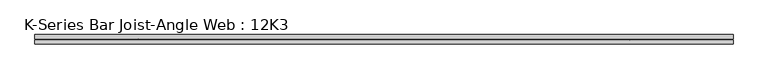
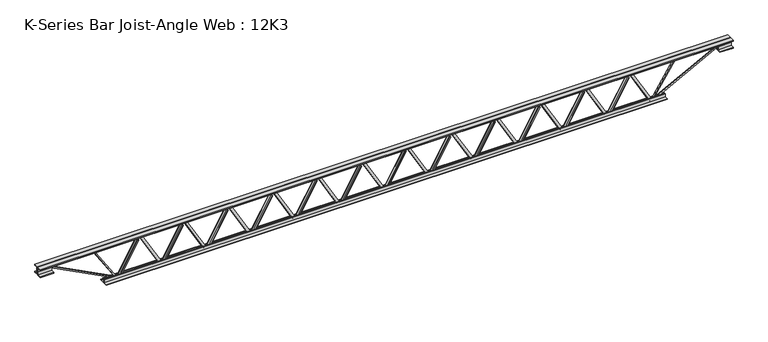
"""IFC4 building model written with IfcOpenShell, lengths in millimetres: beam geometry, K-Series Bar Joist-Angle Web : 12K3."""

from ifc_helpers import new_model, si_unit, frame, origin, place, context, project, spatial, polyline, outline, extrude, faceted_brep, source, transform, mapped, element, save


def k_series_bar_joist_angle_web_12k3_390ba880(model_context):
    return source(origin(), model_context, "Body", "SolidModel", [
        extrude(outline(polyline([(-4.7625, 4.7625), (-4.7625, 0.0), (-17.4625, 0.0), (-17.4625, 4.7625), (-4.7625, 4.7625)])), frame((1688.6471323, 0.0, -114.3), z_axis=(-0.4952527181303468, 0.0, 0.8687489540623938), x_axis=(0.0, -1.0, 0.0)), (0.0, 0.0, 1.0), 263.1370075),
        extrude(outline(polyline([(-149.225, 1720.4410985), (-130.175, 1720.4410985), (-130.175, 1719.6251689), (149.225, 1560.3460022), (149.225, 1542.1119318), (130.175, 1542.1119318), (130.175, 1549.2778614), (-149.225, 1708.5570281), (-149.225, 1720.4410985)])), frame((0.0, 0.0, 0.0), z_axis=(0.0, 1.0, 0.0), x_axis=(0.0, 0.0, 1.0)), (0.0, 0.0, 1.0), 4.7625),
        faceted_brep([(1376.4827652, 0.0, -130.175), (1376.4827652, 0.0, -149.225), (1376.4827652, -4.7625, -149.225), (1376.4827652, -4.7625, -130.175), (1377.2986948, 0.0, -130.175), (1536.5778614, 0.0, 149.225), (1554.8119318, 0.0, 149.225), (1554.8119318, 0.0, 130.175), (1547.6460022, 0.0, 130.175), (1388.3668355, 0.0, -149.225), (1388.3668355, -4.7625, -149.225), (1408.2767314, -4.7625, -114.3), (1404.1393145, -4.7625, -111.9413589), (1534.4586327, -4.7625, 116.6586411), (1538.5960496, -4.7625, 114.3), (1547.6460022, -4.7625, 130.175), (1554.8119318, -4.7625, 130.175), (1554.8119318, -4.7625, 149.225), (1536.5778614, -4.7625, 149.225), (1377.2986948, -4.7625, -130.175), (1538.5960496, -17.4625, 114.3), (1408.2767314, -17.4625, -114.3), (1404.1393145, -17.4625, -111.9413589), (1534.4586327, -17.4625, 116.6586411)], [[[0, 1, 2, 3]], [[1, 0, 4, 5, 6, 7, 8, 9]], [[2, 1, 9, 10]], [[3, 2, 10, 11, 12, 13, 14, 15, 16, 17, 18, 19]], [[0, 3, 19, 4]], [[9, 8, 15, 14, 20, 21, 11, 10]], [[5, 4, 19, 18]], [[7, 6, 17, 16]], [[8, 7, 16, 15]], [[6, 5, 18, 17]], [[21, 22, 12, 11]], [[20, 14, 13, 23]], [[22, 21, 20, 23]], [[12, 22, 23, 13]]]),
        extrude(outline(polyline([(-4.7625, 4.7624999), (-4.7625, 0.0), (-17.4625, 0.0), (-17.4625, 4.7624999), (-4.7625, 4.7624999)])), frame((1344.5444808, 0.0, -114.3), z_axis=(-0.4952527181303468, 0.0, 0.8687489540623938), x_axis=(0.0, -1.0, 0.0)), (0.0, 0.0, 1.0), 263.1370075),
        extrude(outline(polyline([(-149.225, 1376.338447), (-130.175, 1376.338447), (-130.175, 1375.5225174), (149.225, 1216.2433507), (149.225, 1198.0092803), (130.175, 1198.0092803), (130.175, 1205.1752099), (-149.225, 1364.4543766), (-149.225, 1376.338447)])), frame((0.0, 0.0, 0.0), z_axis=(0.0, 1.0, 0.0), x_axis=(0.0, 0.0, 1.0)), (0.0, 0.0, 1.0), 4.7625),
        faceted_brep([(1032.3801136, 0.0, -130.175), (1032.3801136, 0.0, -149.225), (1032.3801136, -4.7625, -149.225), (1032.3801136, -4.7625, -130.175), (1033.1960433, 0.0, -130.175), (1192.4752099, 0.0, 149.225), (1210.7092803, 0.0, 149.225), (1210.7092803, 0.0, 130.175), (1203.5433507, 0.0, 130.175), (1044.264184, 0.0, -149.225), (1044.264184, -4.7625, -149.225), (1064.1740799, -4.7625, -114.3), (1060.036663, -4.7625, -111.9413589), (1190.3559811, -4.7625, 116.6586411), (1194.493398, -4.7625, 114.3), (1203.5433507, -4.7625, 130.175), (1210.7092803, -4.7625, 130.175), (1210.7092803, -4.7625, 149.225), (1192.4752099, -4.7625, 149.225), (1033.1960433, -4.7625, -130.175), (1194.493398, -17.4625, 114.3), (1064.1740799, -17.4625, -114.3), (1060.036663, -17.4625, -111.9413589), (1190.3559811, -17.4625, 116.6586411)], [[[0, 1, 2, 3]], [[1, 0, 4, 5, 6, 7, 8, 9]], [[2, 1, 9, 10]], [[3, 2, 10, 11, 12, 13, 14, 15, 16, 17, 18, 19]], [[0, 3, 19, 4]], [[9, 8, 15, 14, 20, 21, 11, 10]], [[5, 4, 19, 18]], [[7, 6, 17, 16]], [[8, 7, 16, 15]], [[6, 5, 18, 17]], [[21, 22, 12, 11]], [[20, 14, 13, 23]], [[22, 21, 20, 23]], [[12, 22, 23, 13]]]),
        extrude(outline(polyline([(-4.7625, 4.7625), (-4.7625, 0.0), (-17.4625, 0.0), (-17.4625, 4.7625), (-4.7625, 4.7625)])), frame((1000.4418292, 0.0, -114.3), z_axis=(-0.4952527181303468, 0.0, 0.8687489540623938), x_axis=(0.0, -1.0, 0.0)), (0.0, 0.0, 1.0), 263.1370075),
        extrude(outline(polyline([(-149.225, 1032.2357955), (-130.175, 1032.2357955), (-130.175, 1031.4198658), (149.225, 872.1406992), (149.225, 853.9066288), (130.175, 853.9066288), (130.175, 861.0725584), (-149.225, 1020.3517251), (-149.225, 1032.2357955)])), frame((0.0, 0.0, 0.0), z_axis=(0.0, 1.0, 0.0), x_axis=(0.0, 0.0, 1.0)), (0.0, 0.0, 1.0), 4.7625),
        faceted_brep([(688.2774621, 0.0, -130.175), (688.2774621, 0.0, -149.225), (688.2774621, -4.7625, -149.225), (688.2774621, -4.7625, -130.175), (689.0933917, 0.0, -130.175), (848.3725584, 0.0, 149.225), (866.6066288, 0.0, 149.225), (866.6066288, 0.0, 130.175), (859.4406992, 0.0, 130.175), (700.1615325, 0.0, -149.225), (700.1615325, -4.7625, -149.225), (720.0714283, -4.7625, -114.3), (715.9340114, -4.7625, -111.9413589), (846.2533296, -4.7625, 116.6586411), (850.3907465, -4.7625, 114.3), (859.4406992, -4.7625, 130.175), (866.6066288, -4.7625, 130.175), (866.6066288, -4.7625, 149.225), (848.3725584, -4.7625, 149.225), (689.0933917, -4.7625, -130.175), (850.3907465, -17.4625, 114.3), (720.0714283, -17.4625, -114.3), (715.9340114, -17.4625, -111.9413589), (846.2533296, -17.4625, 116.6586411)], [[[0, 1, 2, 3]], [[1, 0, 4, 5, 6, 7, 8, 9]], [[2, 1, 9, 10]], [[3, 2, 10, 11, 12, 13, 14, 15, 16, 17, 18, 19]], [[0, 3, 19, 4]], [[9, 8, 15, 14, 20, 21, 11, 10]], [[5, 4, 19, 18]], [[7, 6, 17, 16]], [[8, 7, 16, 15]], [[6, 5, 18, 17]], [[21, 22, 12, 11]], [[20, 14, 13, 23]], [[22, 21, 20, 23]], [[12, 22, 23, 13]]]),
        extrude(outline(polyline([(-4.7625, 4.7625), (-4.7625, 0.0), (-17.4625, 0.0), (-17.4625, 4.7625), (-4.7625, 4.7625)])), frame((656.3391777, 0.0, -114.3), z_axis=(-0.4952527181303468, 0.0, 0.8687489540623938), x_axis=(0.0, -1.0, 0.0)), (0.0, 0.0, 1.0), 263.1370075),
        extrude(outline(polyline([(-149.225, 688.1331439), (-130.175, 688.1331439), (-130.175, 687.3172143), (149.225, 528.0380477), (149.225, 509.8039773), (130.175, 509.8039773), (130.175, 516.9699069), (-149.225, 676.2490736), (-149.225, 688.1331439)])), frame((0.0, 0.0, 0.0), z_axis=(0.0, 1.0, 0.0), x_axis=(0.0, 0.0, 1.0)), (0.0, 0.0, 1.0), 4.7625),
        faceted_brep([(344.1748106, 0.0, -130.175), (344.1748106, 0.0, -149.225), (344.1748106, -4.7625, -149.225), (344.1748106, -4.7625, -130.175), (344.9907402, 0.0, -130.175), (504.2699069, 0.0, 149.225), (522.5039773, 0.0, 149.225), (522.5039773, 0.0, 130.175), (515.3380477, 0.0, 130.175), (356.058881, 0.0, -149.225), (356.058881, -4.7625, -149.225), (375.9687768, -4.7625, -114.3), (371.8313599, -4.7625, -111.9413589), (502.1506781, -4.7625, 116.6586411), (506.288095, -4.7625, 114.3), (515.3380477, -4.7625, 130.175), (522.5039773, -4.7625, 130.175), (522.5039773, -4.7625, 149.225), (504.2699069, -4.7625, 149.225), (344.9907402, -4.7625, -130.175), (506.288095, -17.4625, 114.3), (375.9687768, -17.4625, -114.3), (371.8313599, -17.4625, -111.9413589), (502.1506781, -17.4625, 116.6586411)], [[[0, 1, 2, 3]], [[1, 0, 4, 5, 6, 7, 8, 9]], [[2, 1, 9, 10]], [[3, 2, 10, 11, 12, 13, 14, 15, 16, 17, 18, 19]], [[0, 3, 19, 4]], [[9, 8, 15, 14, 20, 21, 11, 10]], [[5, 4, 19, 18]], [[7, 6, 17, 16]], [[8, 7, 16, 15]], [[6, 5, 18, 17]], [[21, 22, 12, 11]], [[20, 14, 13, 23]], [[22, 21, 20, 23]], [[12, 22, 23, 13]]]),
        extrude(outline(polyline([(-4.7625, 4.7625), (-4.7625, 0.0), (-17.4625, 0.0), (-17.4625, 4.7625), (-4.7625, 4.7625)])), frame((312.2365262, 0.0, -114.3), z_axis=(-0.4952527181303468, 0.0, 0.8687489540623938), x_axis=(0.0, -1.0, 0.0)), (0.0, 0.0, 1.0), 263.1370075),
        extrude(outline(polyline([(-149.225, 344.0304924), (-130.175, 344.0304924), (-130.175, 343.2145628), (149.225, 183.9353961), (149.225, 165.7013258), (130.175, 165.7013258), (130.175, 172.8672554), (-149.225, 332.146422), (-149.225, 344.0304924)])), frame((0.0, 0.0, 0.0), z_axis=(0.0, 1.0, 0.0), x_axis=(0.0, 0.0, 1.0)), (0.0, 0.0, 1.0), 4.7625),
        faceted_brep([(0.0721591, 0.0, -130.175), (0.0721591, 0.0, -149.225), (0.0721591, -4.7625, -149.225), (0.0721591, -4.7625, -130.175), (0.8880887, 0.0, -130.175), (160.1672554, 0.0, 149.225), (178.4013258, 0.0, 149.225), (178.4013258, 0.0, 130.175), (171.2353961, 0.0, 130.175), (11.9562295, 0.0, -149.225), (11.9562295, -4.7625, -149.225), (31.8661253, -4.7625, -114.3), (27.7287084, -4.7625, -111.9413589), (158.0480266, -4.7625, 116.6586411), (162.1854435, -4.7625, 114.3), (171.2353961, -4.7625, 130.175), (178.4013258, -4.7625, 130.175), (178.4013258, -4.7625, 149.225), (160.1672554, -4.7625, 149.225), (0.8880887, -4.7625, -130.175), (162.1854435, -17.4625, 114.3), (31.8661253, -17.4625, -114.3), (27.7287084, -17.4625, -111.9413589), (158.0480266, -17.4625, 116.6586411)], [[[0, 1, 2, 3]], [[1, 0, 4, 5, 6, 7, 8, 9]], [[2, 1, 9, 10]], [[3, 2, 10, 11, 12, 13, 14, 15, 16, 17, 18, 19]], [[0, 3, 19, 4]], [[9, 8, 15, 14, 20, 21, 11, 10]], [[5, 4, 19, 18]], [[7, 6, 17, 16]], [[8, 7, 16, 15]], [[6, 5, 18, 17]], [[21, 22, 12, 11]], [[20, 14, 13, 23]], [[22, 21, 20, 23]], [[12, 22, 23, 13]]]),
        extrude(outline(polyline([(-4.7625, 4.7625), (-4.7625, 0.0), (-17.4625, 0.0), (-17.4625, 4.7625), (-4.7625, 4.7625)])), frame((-31.8661253, 0.0, -114.3), z_axis=(-0.4952527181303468, 0.0, 0.8687489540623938), x_axis=(0.0, -1.0, 0.0)), (0.0, 0.0, 1.0), 263.1370075),
        extrude(outline(polyline([(-149.225, -0.0721591), (-130.175, -0.0721591), (-130.175, -0.8880887), (149.225, -160.1672554), (149.225, -178.4013258), (130.175, -178.4013258), (130.175, -171.2353961), (-149.225, -11.9562295), (-149.225, -0.0721591)])), frame((0.0, 0.0, 0.0), z_axis=(0.0, 1.0, 0.0), x_axis=(0.0, 0.0, 1.0)), (0.0, 0.0, 1.0), 4.7625),
        faceted_brep([(-344.0304924, 0.0, -130.175), (-344.0304924, 0.0, -149.225), (-344.0304924, -4.7625, -149.225), (-344.0304924, -4.7625, -130.175), (-343.2145628, 0.0, -130.175), (-183.9353961, 0.0, 149.225), (-165.7013258, 0.0, 149.225), (-165.7013258, 0.0, 130.175), (-172.8672554, 0.0, 130.175), (-332.146422, 0.0, -149.225), (-332.146422, -4.7625, -149.225), (-312.2365262, -4.7625, -114.3), (-316.3739431, -4.7625, -111.9413589), (-186.0546249, -4.7625, 116.6586411), (-181.917208, -4.7625, 114.3), (-172.8672554, -4.7625, 130.175), (-165.7013258, -4.7625, 130.175), (-165.7013258, -4.7625, 149.225), (-183.9353961, -4.7625, 149.225), (-343.2145628, -4.7625, -130.175), (-181.917208, -17.4625, 114.3), (-312.2365262, -17.4625, -114.3), (-316.3739431, -17.4625, -111.9413589), (-186.0546249, -17.4625, 116.6586411)], [[[0, 1, 2, 3]], [[1, 0, 4, 5, 6, 7, 8, 9]], [[2, 1, 9, 10]], [[3, 2, 10, 11, 12, 13, 14, 15, 16, 17, 18, 19]], [[0, 3, 19, 4]], [[9, 8, 15, 14, 20, 21, 11, 10]], [[5, 4, 19, 18]], [[7, 6, 17, 16]], [[8, 7, 16, 15]], [[6, 5, 18, 17]], [[21, 22, 12, 11]], [[20, 14, 13, 23]], [[22, 21, 20, 23]], [[12, 22, 23, 13]]]),
        extrude(outline(polyline([(-4.7625, 4.7625), (-4.7625, 0.0), (-17.4625, 0.0), (-17.4625, 4.7625), (-4.7625, 4.7625)])), frame((-375.9687768, 0.0, -114.3), z_axis=(-0.4952527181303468, 0.0, 0.8687489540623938), x_axis=(0.0, -1.0, 0.0)), (0.0, 0.0, 1.0), 263.1370075),
        extrude(outline(polyline([(-149.225, -344.1748106), (-130.175, -344.1748106), (-130.175, -344.9907402), (149.225, -504.2699069), (149.225, -522.5039773), (130.175, -522.5039773), (130.175, -515.3380477), (-149.225, -356.058881), (-149.225, -344.1748106)])), frame((0.0, 0.0, 0.0), z_axis=(0.0, 1.0, 0.0), x_axis=(0.0, 0.0, 1.0)), (0.0, 0.0, 1.0), 4.7625),
        faceted_brep([(-688.1331439, 0.0, -130.175), (-688.1331439, 0.0, -149.225), (-688.1331439, -4.7625, -149.225), (-688.1331439, -4.7625, -130.175), (-687.3172143, 0.0, -130.175), (-528.0380477, 0.0, 149.225), (-509.8039773, 0.0, 149.225), (-509.8039773, 0.0, 130.175), (-516.9699069, 0.0, 130.175), (-676.2490736, 0.0, -149.225), (-676.2490736, -4.7625, -149.225), (-656.3391777, -4.7625, -114.3), (-660.4765946, -4.7625, -111.9413589), (-530.1572764, -4.7625, 116.6586411), (-526.0198595, -4.7625, 114.3), (-516.9699069, -4.7625, 130.175), (-509.8039773, -4.7625, 130.175), (-509.8039773, -4.7625, 149.225), (-528.0380477, -4.7625, 149.225), (-687.3172143, -4.7625, -130.175), (-526.0198595, -17.4625, 114.3), (-656.3391777, -17.4625, -114.3), (-660.4765946, -17.4625, -111.9413589), (-530.1572764, -17.4625, 116.6586411)], [[[0, 1, 2, 3]], [[1, 0, 4, 5, 6, 7, 8, 9]], [[2, 1, 9, 10]], [[3, 2, 10, 11, 12, 13, 14, 15, 16, 17, 18, 19]], [[0, 3, 19, 4]], [[9, 8, 15, 14, 20, 21, 11, 10]], [[5, 4, 19, 18]], [[7, 6, 17, 16]], [[8, 7, 16, 15]], [[6, 5, 18, 17]], [[21, 22, 12, 11]], [[20, 14, 13, 23]], [[22, 21, 20, 23]], [[12, 22, 23, 13]]]),
        extrude(outline(polyline([(-4.7625, 4.7625), (-4.7625, 0.0), (-17.4625, 0.0), (-17.4625, 4.7625), (-4.7625, 4.7625)])), frame((-720.0714283, 0.0, -114.3), z_axis=(-0.4952527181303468, 0.0, 0.8687489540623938), x_axis=(0.0, -1.0, 0.0)), (0.0, 0.0, 1.0), 263.1370075),
        extrude(outline(polyline([(-149.225, -688.2774621), (-130.175, -688.2774621), (-130.175, -689.0933917), (149.225, -848.3725584), (149.225, -866.6066288), (130.175, -866.6066288), (130.175, -859.4406992), (-149.225, -700.1615325), (-149.225, -688.2774621)])), frame((0.0, 0.0, 0.0), z_axis=(0.0, 1.0, 0.0), x_axis=(0.0, 0.0, 1.0)), (0.0, 0.0, 1.0), 4.7625),
        faceted_brep([(-1032.2357955, 0.0, -130.175), (-1032.2357955, 0.0, -149.225), (-1032.2357955, -4.7625, -149.225), (-1032.2357955, -4.7625, -130.175), (-1031.4198658, 0.0, -130.175), (-872.1406992, 0.0, 149.225), (-853.9066288, 0.0, 149.225), (-853.9066288, 0.0, 130.175), (-861.0725584, 0.0, 130.175), (-1020.3517251, 0.0, -149.225), (-1020.3517251, -4.7625, -149.225), (-1000.4418292, -4.7625, -114.3), (-1004.5792461, -4.7625, -111.9413589), (-874.2599279, -4.7625, 116.6586411), (-870.1225111, -4.7625, 114.3), (-861.0725584, -4.7625, 130.175), (-853.9066288, -4.7625, 130.175), (-853.9066288, -4.7625, 149.225), (-872.1406992, -4.7625, 149.225), (-1031.4198658, -4.7625, -130.175), (-870.1225111, -17.4625, 114.3), (-1000.4418292, -17.4625, -114.3), (-1004.5792461, -17.4625, -111.9413589), (-874.2599279, -17.4625, 116.6586411)], [[[0, 1, 2, 3]], [[1, 0, 4, 5, 6, 7, 8, 9]], [[2, 1, 9, 10]], [[3, 2, 10, 11, 12, 13, 14, 15, 16, 17, 18, 19]], [[0, 3, 19, 4]], [[9, 8, 15, 14, 20, 21, 11, 10]], [[5, 4, 19, 18]], [[7, 6, 17, 16]], [[8, 7, 16, 15]], [[6, 5, 18, 17]], [[21, 22, 12, 11]], [[20, 14, 13, 23]], [[22, 21, 20, 23]], [[12, 22, 23, 13]]]),
        extrude(outline(polyline([(-4.7625, 4.7625), (-4.7625, 0.0), (-17.4625, 0.0), (-17.4625, 4.7625), (-4.7625, 4.7625)])), frame((-1064.1740799, 0.0, -114.3), z_axis=(-0.4952527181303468, 0.0, 0.8687489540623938), x_axis=(0.0, -1.0, 0.0)), (0.0, 0.0, 1.0), 263.1370075),
        extrude(outline(polyline([(-149.225, -1032.3801136), (-130.175, -1032.3801136), (-130.175, -1033.1960433), (149.225, -1192.4752099), (149.225, -1210.7092803), (130.175, -1210.7092803), (130.175, -1203.5433507), (-149.225, -1044.264184), (-149.225, -1032.3801136)])), frame((0.0, 0.0, 0.0), z_axis=(0.0, 1.0, 0.0), x_axis=(0.0, 0.0, 1.0)), (0.0, 0.0, 1.0), 4.7625),
        faceted_brep([(-1376.338447, 0.0, -130.175), (-1376.338447, 0.0, -149.225), (-1376.338447, -4.7625, -149.225), (-1376.338447, -4.7625, -130.175), (-1375.5225174, 0.0, -130.175), (-1216.2433507, 0.0, 149.225), (-1198.0092803, 0.0, 149.225), (-1198.0092803, 0.0, 130.175), (-1205.1752099, 0.0, 130.175), (-1364.4543766, 0.0, -149.225), (-1364.4543766, -4.7625, -149.225), (-1344.5444808, -4.7625, -114.3), (-1348.6818976, -4.7625, -111.9413589), (-1218.3625795, -4.7625, 116.6586411), (-1214.2251626, -4.7625, 114.3), (-1205.1752099, -4.7625, 130.175), (-1198.0092803, -4.7625, 130.175), (-1198.0092803, -4.7625, 149.225), (-1216.2433507, -4.7625, 149.225), (-1375.5225174, -4.7625, -130.175), (-1214.2251626, -17.4625, 114.3), (-1344.5444808, -17.4625, -114.3), (-1348.6818976, -17.4625, -111.9413589), (-1218.3625795, -17.4625, 116.6586411)], [[[0, 1, 2, 3]], [[1, 0, 4, 5, 6, 7, 8, 9]], [[2, 1, 9, 10]], [[3, 2, 10, 11, 12, 13, 14, 15, 16, 17, 18, 19]], [[0, 3, 19, 4]], [[9, 8, 15, 14, 20, 21, 11, 10]], [[5, 4, 19, 18]], [[7, 6, 17, 16]], [[8, 7, 16, 15]], [[6, 5, 18, 17]], [[21, 22, 12, 11]], [[20, 14, 13, 23]], [[22, 21, 20, 23]], [[12, 22, 23, 13]]]),
        extrude(outline(polyline([(-4.7625, 4.7625), (-4.7625, 0.0), (-17.4625, 0.0), (-17.4625, 4.7625), (-4.7625, 4.7625)])), frame((-1408.2767314, 0.0, -114.3), z_axis=(-0.4952527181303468, 0.0, 0.8687489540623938), x_axis=(0.0, -1.0, 0.0)), (0.0, 0.0, 1.0), 263.1370075),
        extrude(outline(polyline([(-149.225, -1376.4827652), (-130.175, -1376.4827652), (-130.175, -1377.2986948), (149.225, -1536.5778614), (149.225, -1554.8119318), (130.175, -1554.8119318), (130.175, -1547.6460022), (-149.225, -1388.3668355), (-149.225, -1376.4827652)])), frame((0.0, 0.0, 0.0), z_axis=(0.0, 1.0, 0.0), x_axis=(0.0, 0.0, 1.0)), (0.0, 0.0, 1.0), 4.7625),
        faceted_brep([(-1720.4410985, 0.0, -130.175), (-1720.4410985, 0.0, -149.225), (-1720.4410985, -4.7625, -149.225), (-1720.4410985, -4.7625, -130.175), (-1719.6251689, 0.0, -130.175), (-1560.3460022, 0.0, 149.225), (-1542.1119318, 0.0, 149.225), (-1542.1119318, 0.0, 130.175), (-1549.2778614, 0.0, 130.175), (-1708.5570281, 0.0, -149.225), (-1708.5570281, -4.7625, -149.225), (-1688.6471323, -4.7625, -114.3), (-1692.7845492, -4.7625, -111.9413589), (-1562.465231, -4.7625, 116.6586411), (-1558.3278141, -4.7625, 114.3), (-1549.2778614, -4.7625, 130.175), (-1542.1119318, -4.7625, 130.175), (-1542.1119318, -4.7625, 149.225), (-1560.3460022, -4.7625, 149.225), (-1719.6251689, -4.7625, -130.175), (-1558.3278141, -17.4625, 114.3), (-1688.6471323, -17.4625, -114.3), (-1692.7845492, -17.4625, -111.9413589), (-1562.465231, -17.4625, 116.6586411)], [[[0, 1, 2, 3]], [[1, 0, 4, 5, 6, 7, 8, 9]], [[2, 1, 9, 10]], [[3, 2, 10, 11, 12, 13, 14, 15, 16, 17, 18, 19]], [[0, 3, 19, 4]], [[9, 8, 15, 14, 20, 21, 11, 10]], [[5, 4, 19, 18]], [[7, 6, 17, 16]], [[8, 7, 16, 15]], [[6, 5, 18, 17]], [[21, 22, 12, 11]], [[20, 14, 13, 23]], [[22, 21, 20, 23]], [[12, 22, 23, 13]]]),
        extrude(outline(polyline([(-4.7625, 4.7625), (-4.7625, 0.0), (-17.4625, 0.0), (-17.4625, 4.7625), (-4.7625, 4.7625)])), frame((2032.7497838, 0.0, -114.3), z_axis=(-0.4952527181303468, 0.0, 0.8687489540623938), x_axis=(0.0, -1.0, 0.0)), (0.0, 0.0, 1.0), 263.1370075),
        extrude(outline(polyline([(-149.225, 2064.54375), (-130.175, 2064.54375), (-130.175, 2063.7278204), (149.225, 1904.4486537), (149.225, 1886.2145833), (130.175, 1886.2145833), (130.175, 1893.3805129), (-149.225, 2052.6596796), (-149.225, 2064.54375)])), frame((0.0, 0.0, 0.0), z_axis=(0.0, 1.0, 0.0), x_axis=(0.0, 0.0, 1.0)), (0.0, 0.0, 1.0), 4.7625),
        faceted_brep([(1720.5854167, 0.0, -130.175), (1720.5854167, 0.0, -149.225), (1720.5854167, -4.7625, -149.225), (1720.5854167, -4.7625, -130.175), (1721.4013463, 0.0, -130.175), (1880.6805129, 0.0, 149.225), (1898.9145833, 0.0, 149.225), (1898.9145833, 0.0, 130.175), (1891.7486537, 0.0, 130.175), (1732.4694871, 0.0, -149.225), (1732.4694871, -4.7625, -149.225), (1752.3793829, -4.7625, -114.3), (1748.241966, -4.7625, -111.9413589), (1878.5612842, -4.7625, 116.6586411), (1882.6987011, -4.7625, 114.3), (1891.7486537, -4.7625, 130.175), (1898.9145833, -4.7625, 130.175), (1898.9145833, -4.7625, 149.225), (1880.6805129, -4.7625, 149.225), (1721.4013463, -4.7625, -130.175), (1882.6987011, -17.4625, 114.3), (1752.3793829, -17.4625, -114.3), (1748.241966, -17.4625, -111.9413589), (1878.5612842, -17.4625, 116.6586411)], [[[0, 1, 2, 3]], [[1, 0, 4, 5, 6, 7, 8, 9]], [[2, 1, 9, 10]], [[3, 2, 10, 11, 12, 13, 14, 15, 16, 17, 18, 19]], [[0, 3, 19, 4]], [[9, 8, 15, 14, 20, 21, 11, 10]], [[5, 4, 19, 18]], [[7, 6, 17, 16]], [[8, 7, 16, 15]], [[6, 5, 18, 17]], [[21, 22, 12, 11]], [[20, 14, 13, 23]], [[22, 21, 20, 23]], [[12, 22, 23, 13]]]),
        extrude(outline(polyline([(-4.7625, 4.7625), (-4.7625, 0.0), (-17.4625, 0.0), (-17.4625, 4.7625), (-4.7625, 4.7625)])), frame((-1752.3793829, 0.0, -114.3), z_axis=(-0.4952527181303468, 0.0, 0.8687489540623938), x_axis=(0.0, -1.0, 0.0)), (0.0, 0.0, 1.0), 263.1370075),
        extrude(outline(polyline([(-149.225, -1720.5854167), (-130.175, -1720.5854167), (-130.175, -1721.4013463), (149.225, -1880.6805129), (149.225, -1898.9145833), (130.175, -1898.9145833), (130.175, -1891.7486537), (-149.225, -1732.4694871), (-149.225, -1720.5854167)])), frame((0.0, 0.0, 0.0), z_axis=(0.0, 1.0, 0.0), x_axis=(0.0, 0.0, 1.0)), (0.0, 0.0, 1.0), 4.7625),
        faceted_brep([(-2064.54375, 0.0, -130.175), (-2064.54375, 0.0, -149.225), (-2064.54375, -4.7625, -149.225), (-2064.54375, -4.7625, -130.175), (-2063.7278204, 0.0, -130.175), (-1904.4486537, 0.0, 149.225), (-1886.2145833, 0.0, 149.225), (-1886.2145833, 0.0, 130.175), (-1893.3805129, 0.0, 130.175), (-2052.6596796, 0.0, -149.225), (-2052.6596796, -4.7625, -149.225), (-2032.7497838, -4.7625, -114.3), (-2036.8872007, -4.7625, -111.9413589), (-1906.5678825, -4.7625, 116.6586411), (-1902.4304656, -4.7625, 114.3), (-1893.3805129, -4.7625, 130.175), (-1886.2145833, -4.7625, 130.175), (-1886.2145833, -4.7625, 149.225), (-1904.4486537, -4.7625, 149.225), (-2063.7278204, -4.7625, -130.175), (-1902.4304656, -17.4625, 114.3), (-2032.7497838, -17.4625, -114.3), (-2036.8872007, -17.4625, -111.9413589), (-1906.5678825, -17.4625, 116.6586411)], [[[0, 1, 2, 3]], [[1, 0, 4, 5, 6, 7, 8, 9]], [[2, 1, 9, 10]], [[3, 2, 10, 11, 12, 13, 14, 15, 16, 17, 18, 19]], [[0, 3, 19, 4]], [[9, 8, 15, 14, 20, 21, 11, 10]], [[5, 4, 19, 18]], [[7, 6, 17, 16]], [[8, 7, 16, 15]], [[6, 5, 18, 17]], [[21, 22, 12, 11]], [[20, 14, 13, 23]], [[22, 21, 20, 23]], [[12, 22, 23, 13]]]),
        extrude(outline(polyline([(4.7625, 152.4), (36.5125, 152.4), (36.5125, 146.05), (11.1125, 146.05), (11.1125, 120.65), (4.7625, 120.65), (4.7625, 152.4)])), frame((-2674.14375, 0.0, 0.0), z_axis=(1.0, 0.0, 0.0), x_axis=(0.0, 1.0, 0.0)), (0.0, 0.0, 1.0), 5348.2875),
        extrude(outline(polyline([(-4.7625, 152.4), (-4.7625, 120.65), (-11.1125, 120.65), (-11.1125, 146.05), (-36.5125, 146.05), (-36.5125, 152.4), (-4.7625, 152.4)])), frame((-2674.14375, 0.0, 0.0), z_axis=(1.0, 0.0, 0.0), x_axis=(0.0, 1.0, 0.0)), (0.0, 0.0, 1.0), 5348.2875),
        extrude(outline(polyline([(-4.7625, 88.9), (-36.5125, 88.9), (-36.5125, 95.25), (-11.1125, 95.25), (-11.1125, 120.65), (-4.7625, 120.65), (-4.7625, 88.9)])), frame((-2674.14375, 0.0, 0.0), z_axis=(1.0, 0.0, 0.0), x_axis=(0.0, 1.0, 0.0)), (0.0, 0.0, 1.0), 101.6),
        extrude(outline(polyline([(36.5125, 88.9), (4.7625, 88.9), (4.7625, 120.65), (11.1125, 120.65), (11.1125, 95.25), (36.5125, 95.25), (36.5125, 88.9)])), frame((-2674.14375, 0.0, 0.0), z_axis=(1.0, 0.0, 0.0), x_axis=(0.0, 1.0, 0.0)), (0.0, 0.0, 1.0), 101.6),
        extrude(outline(polyline([(4.7625, 88.9), (4.7625, 120.65), (11.1125, 120.65), (11.1125, 95.25), (36.5125, 95.25), (36.5125, 88.9), (4.7625, 88.9)])), frame((2572.54375, 0.0, 0.0), z_axis=(1.0, 0.0, 0.0), x_axis=(0.0, 1.0, 0.0)), (0.0, 0.0, 1.0), 101.6),
        extrude(outline(polyline([(-4.7625, 88.9), (-36.5125, 88.9), (-36.5125, 95.25), (-11.1125, 95.25), (-11.1125, 120.65), (-4.7625, 120.65), (-4.7625, 88.9)])), frame((2572.54375, 0.0, 0.0), z_axis=(1.0, 0.0, 0.0), x_axis=(0.0, 1.0, 0.0)), (0.0, 0.0, 1.0), 101.6),
        extrude(outline(polyline([(4.7625, -152.4), (4.7625, -120.65), (11.1125, -120.65), (11.1125, -146.05), (36.5125, -146.05), (36.5125, -152.4), (4.7625, -152.4)])), frame((-2166.14375, 0.0, 0.0), z_axis=(1.0, 0.0, 0.0), x_axis=(0.0, 1.0, 0.0)), (0.0, 0.0, 1.0), 4332.2875),
        extrude(outline(polyline([(-4.7625, -152.4), (-36.5125, -152.4), (-36.5125, -146.05), (-11.1125, -146.05), (-11.1125, -120.65), (-4.7625, -120.65), (-4.7625, -152.4)])), frame((-2166.14375, 0.0, 0.0), z_axis=(1.0, 0.0, 0.0), x_axis=(0.0, 1.0, 0.0)), (0.0, 0.0, 1.0), 4332.2875),
        extrude(outline(polyline([(4.7625, 4.7625), (4.7625, -4.7625), (-4.7625, -4.7625), (-4.7625, 4.7625), (4.7625, 4.7625)])), frame((2064.54375, 0.0, -146.05), z_axis=(0.5419369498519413, 0.0, 0.8404191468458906), x_axis=(0.0, -1.0, 0.0)), (0.0, 0.0, 1.0), 317.3416515),
        extrude(outline(polyline([(4.7625, 4.7625), (4.7625, -4.7625), (-4.7625, -4.7625), (-4.7625, 4.7625), (4.7625, 4.7625)])), frame((-2064.54375, 0.0, -146.05), z_axis=(-0.5419369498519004, 0.0, 0.840419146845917), x_axis=(0.0, -1.0, 0.0)), (0.0, 0.0, 1.0), 317.3416515),
        extrude(outline(polyline([(0.0, -9.525), (0.0, 0.0), (573.7533355, 0.0), (573.7533355, -9.525), (0.0, -9.525)])), frame((2574.7575214, -4.7625, 116.4332925), z_axis=(-0.46483389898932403, 0.0, 0.8853979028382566), x_axis=(-0.8853979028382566, 0.0, -0.46483389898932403)), (0.0, 0.0, 1.0), 9.525),
        extrude(outline(polyline([(0.0, -9.525), (0.0, 0.0), (573.7533355, 0.0), (573.7533355, -9.525), (0.0, -9.525)])), frame((-2574.7575214, 4.7625, 116.4332925), z_axis=(0.4648338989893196, 0.0, 0.8853979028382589), x_axis=(0.8853979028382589, 0.0, -0.4648338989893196)), (0.0, 0.0, 1.0), 9.525),
    ])


if __name__ == "__main__":
    model = new_model("IFC4")
    model_context = context("Model", 3, world=origin())
    ifc_project = project(units=[si_unit("LENGTHUNIT", "METRE", prefix="MILLI")], contexts=[model_context])
    site = spatial("IfcSite", under=ifc_project)
    building = spatial("IfcBuilding", under=site)
    placement = place(None, origin())
    k_series_bar_joist_angle_web_12k3_shape = k_series_bar_joist_angle_web_12k3_390ba880(model_context)
    element("IfcBeam", 1, ObjectType="K-Series Bar Joist-Angle Web : 12K3", at=placement, inside=building, context=model_context, shape_type="MappedRepresentation", body=[
        mapped(k_series_bar_joist_angle_web_12k3_shape, transform((0.0, 0.0, 0.0), x_axis=(1.0, 0.0, 0.0), y_axis=(0.0, 1.0, 0.0), z_axis=(0.0, 0.0, 1.0))),
    ])
    save(model, "model.ifc")
